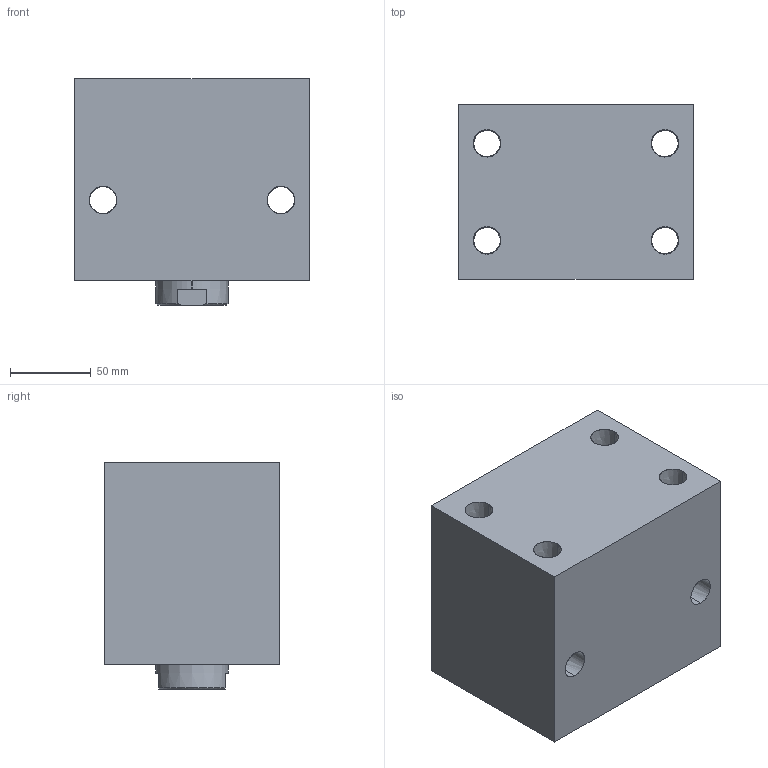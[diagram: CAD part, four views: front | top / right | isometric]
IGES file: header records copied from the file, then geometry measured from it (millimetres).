
Start section: SolidWorks IGES file using analytic representation for surfaces
Global section: file name: D:\karuppas\Clasp\3D model\Block cylinder B01C-Female thread\B01C-750F\Block cylinder B01C-750F.IGS; native system: SolidWorks 2017; preprocessor: SolidWorks 2017; author: pc; date: 220710.000620; units: millimetre
Bounding box: 145 x 108 x 140 mm (x, y, z)
Surface area: 160816.2 mm2 (no closed solid volume)
Topology: 0 solids, 0 shells, 341 faces, 5153 edges, 5147 vertices
Faces by surface type: bspline 289, revolution 52
